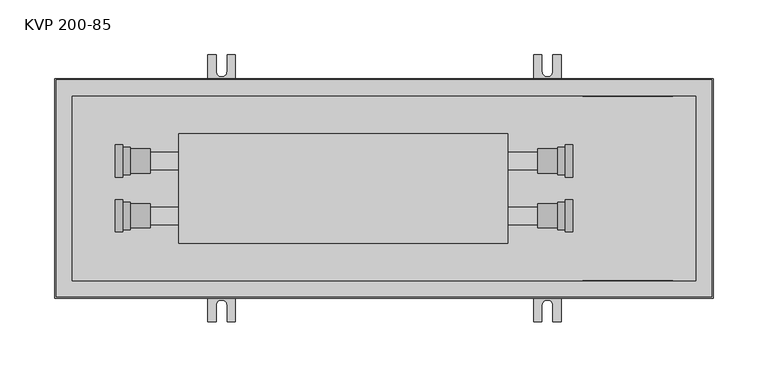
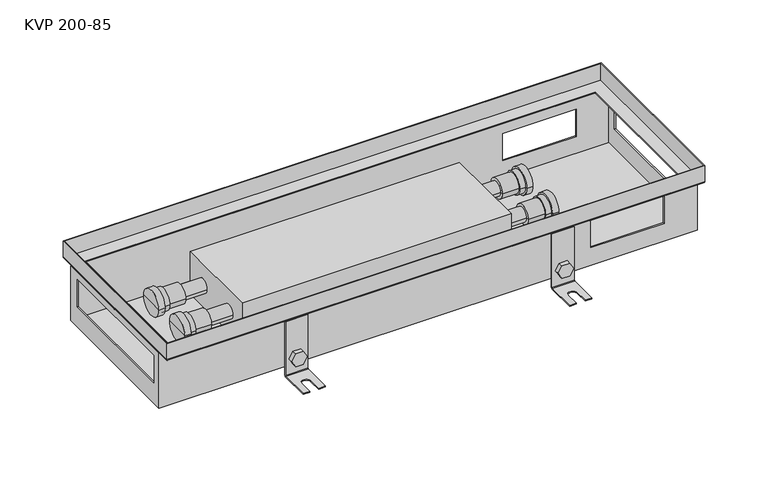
"""IFC4 building model written with IfcOpenShell, lengths in millimetres: proxy geometry, TECHNO_Конвектор встраиваемый_Usual_KVP-200_85-105-120 : KVP 200-85."""

from ifc_helpers import new_model, si_unit, point, frame, frame_2d, origin, place, context, project, spatial, polyline, circle_curve, ellipse_curve, trimmed, segment, composite_curve, outline, extrude, faceted_brep, source, transform, mapped, element, save
from ifc_brep_helpers import plane_surface, cylinder_surface, revolved_surface, advanced_brep


def kvp_200_85_9face046(model_context):
    return source(origin(), model_context, "Body", "SolidModel", [
        extrude(outline(composite_curve([segment(trimmed(circle_curve(frame_2d((-75.5, 449.0)), 7.5), [point((-75.5, 441.5))], [point((-75.5, 456.5))], False, "CARTESIAN"), True, "CONTINUOUS"), segment(trimmed(circle_curve(frame_2d((-75.5, 449.0)), 7.5), [point((-75.5, 456.5))], [point((-75.5, 441.5))], False, "CARTESIAN"), True, "CONTINUOUS")], self_intersect=False)), frame((0.0, 85.2, 0.0), z_axis=(0.0, 1.0, 0.0), x_axis=(0.0, 0.0, 1.0)), (0.0, 0.0, 1.0), 1.5),
        extrude(outline(polyline([(-75.5, 440.339746), (-83.0, 444.669873), (-83.0, 453.330127), (-75.5, 457.660254), (-68.0, 453.330127), (-68.0, 444.669873), (-75.5, 440.339746)])), frame((0.0, 87.9, 0.0), z_axis=(0.0, 1.0, 0.0), x_axis=(0.0, 0.0, 1.0)), (0.0, 0.0, 1.0), 5.1),
        advanced_brep(
        [(461.5, 87.9, -30.5), (461.5, 86.7, -30.5), (461.5, 86.7, -93.5), (461.5, 88.7, -95.5), (461.5, 121.7, -95.5), (461.5, 121.7, -94.3), (461.5, 88.7, -94.3), (461.5, 87.9, -93.5), (436.5, 87.9, -30.5), (436.5, 87.9, -93.5), (436.5, 88.7, -94.3), (436.5, 121.7, -94.3), (436.5, 121.7, -95.5), (436.5, 88.7, -95.5), (436.5, 86.7, -93.5), (436.5, 86.7, -30.5), (454.0, 121.7, -94.3), (454.0, 106.7, -94.3), (444.0, 106.7, -94.3), (444.0, 121.7, -94.3), (444.0, 121.7, -95.5), (454.0, 121.7, -95.5), (444.0, 106.7, -95.5), (454.0, 106.7, -95.5)],
        [
            (0, 1),
            (1, 2),
            (2, 3, circle_curve(frame((461.5, 88.7, -93.5), z_axis=(1.0, 0.0, 0.0), x_axis=(0.0, 1.0, 0.0)), 2.0)),
            (3, 4),
            (4, 5),
            (5, 6),
            (6, 7, circle_curve(frame((461.5, 88.7, -93.5), z_axis=(-1.0, 0.0, 0.0), x_axis=(0.0, 1.0, 0.0)), 0.8)),
            (7, 0),
            (8, 9),
            (9, 10, circle_curve(frame((436.5, 88.7, -93.5), z_axis=(1.0, 0.0, 0.0), x_axis=(0.0, 1.0, 0.0)), 0.8)),
            (10, 11),
            (11, 12),
            (12, 13),
            (13, 14, circle_curve(frame((436.5, 88.7, -93.5), z_axis=(-1.0, 0.0, 0.0), x_axis=(0.0, 1.0, 0.0)), 2.0)),
            (14, 15),
            (15, 8),
            (7, 9),
            (8, 0),
            (6, 10),
            (5, 16),
            (16, 17),
            (17, 18, circle_curve(frame((449.0, 106.7, -94.3), z_axis=(0.0, 0.0, -1.0), x_axis=(1.0, 0.0, 0.0)), 5.0)),
            (18, 19),
            (19, 11),
            (19, 20),
            (20, 12),
            (4, 21),
            (21, 16),
            (3, 13),
            (20, 22),
            (22, 23, circle_curve(frame((449.0, 106.7, -95.5), z_axis=(0.0, 0.0, 1.0), x_axis=(1.0, 0.0, 0.0)), 5.0)),
            (23, 21),
            (2, 14),
            (1, 15),
            (18, 22),
            (23, 17),
        ],
        [
            plane_surface(frame((461.5, 87.9, -30.5), z_axis=(1.0, 0.0, 0.0), x_axis=(0.0, 0.0, -1.0))),
            plane_surface(frame((436.5, 87.9, -30.5), z_axis=(-1.0, 0.0, 0.0), x_axis=(0.0, 0.0, 1.0))),
            plane_surface(frame((461.5, 87.9, -30.5), z_axis=(0.0, 1.0, 0.0), x_axis=(-1.0, 0.0, 0.0))),
            revolved_surface(polyline([(436.5, 89.5, -93.5), (461.5, 89.5, -93.5)]), (436.5, 88.7, -93.5), (-1.0, 0.0, 0.0)),
            plane_surface(frame((461.5, 88.7, -94.3), z_axis=(0.0, 0.0, 1.0), x_axis=(-1.0, 0.0, 0.0))),
            plane_surface(frame((461.5, 121.7, -94.3), z_axis=(0.0, 1.0, 0.0), x_axis=(-1.0, 0.0, 0.0))),
            plane_surface(frame((461.5, 121.7, -95.5), z_axis=(0.0, 0.0, -1.0), x_axis=(-1.0, 0.0, 0.0))),
            cylinder_surface(frame((436.5, 88.7, -93.5), z_axis=(1.0, 0.0, 0.0), x_axis=(0.0, 1.0, 0.0)), 2.0),
            plane_surface(frame((461.5, 86.7, -93.5), z_axis=(0.0, -1.0, 0.0), x_axis=(-1.0, 0.0, 0.0))),
            plane_surface(frame((461.5, 86.7, -30.5), z_axis=(0.0, 0.0, 1.0), x_axis=(-1.0, 0.0, 0.0))),
            plane_surface(frame((444.0, 106.7, -94.3), z_axis=(1.0, 0.0, 0.0), x_axis=(0.0, 0.0, -1.0))),
            plane_surface(frame((454.0, 121.7, -94.3), z_axis=(-1.0, 0.0, 0.0), x_axis=(0.0, 0.0, -1.0))),
            revolved_surface(polyline([(454.0, 106.7, -94.3), (454.0, 106.7, -95.5)]), (449.0, 106.7, -95.5), (0.0, 0.0, 1.0)),
        ],
        [
            (0, [[1, 2, 3, 4, 5, 6, 7, 8]]),
            (1, [[9, 10, 11, 12, 13, 14, 15, 16]]),
            (2, [[17, -9, 18, -8]]),
            (3, [[19, -10, -17, -7]]),
            (4, [[20, 21, 22, 23, 24, -11, -19, -6]]),
            (5, [[-24, 25, 26, -12]]),
            (5, [[27, 28, -20, -5]]),
            (6, [[29, -13, -26, 30, 31, 32, -27, -4]]),
            (7, [[33, -14, -29, -3]]),
            (8, [[34, -15, -33, -2]]),
            (9, [[-18, -16, -34, -1]]),
            (10, [[-30, -25, -23, 35]]),
            (11, [[-21, -28, -32, 36]]),
            (12, [[-22, -36, -31, -35]]),
        ],
    ),
        extrude(outline(composite_curve([segment(trimmed(circle_curve(frame_2d((-75.5, 449.0)), 7.5), [point((-75.5, 441.5))], [point((-75.5, 456.5))], False, "CARTESIAN"), True, "CONTINUOUS"), segment(trimmed(circle_curve(frame_2d((-75.5, 449.0)), 7.5), [point((-75.5, 456.5))], [point((-75.5, 441.5))], False, "CARTESIAN"), True, "CONTINUOUS")], self_intersect=False)), frame((0.0, -86.7, 0.0), z_axis=(0.0, 1.0, 0.0), x_axis=(0.0, 0.0, 1.0)), (0.0, 0.0, 1.0), 1.5),
        extrude(outline(polyline([(-75.5, 440.339746), (-83.0, 444.669873), (-83.0, 453.330127), (-75.5, 457.660254), (-68.0, 453.330127), (-68.0, 444.669873), (-75.5, 440.339746)])), frame((0.0, -93.0, 0.0), z_axis=(0.0, 1.0, 0.0), x_axis=(0.0, 0.0, 1.0)), (0.0, 0.0, 1.0), 5.1),
        advanced_brep(
        [(461.5, -87.9, -30.5), (461.5, -87.9, -93.5), (461.5, -88.7, -94.3), (461.5, -121.7, -94.3), (461.5, -121.7, -95.5), (461.5, -88.7, -95.5), (461.5, -86.7, -93.5), (461.5, -86.7, -30.5), (436.5, -87.9, -30.5), (436.5, -86.7, -30.5), (436.5, -86.7, -93.5), (436.5, -88.7, -95.5), (436.5, -121.7, -95.5), (436.5, -121.7, -94.3), (436.5, -88.7, -94.3), (436.5, -87.9, -93.5), (444.0, -121.7, -94.3), (444.0, -106.7, -94.3), (454.0, -106.7, -94.3), (454.0, -121.7, -94.3), (454.0, -121.7, -95.5), (444.0, -121.7, -95.5), (454.0, -106.7, -95.5), (444.0, -106.7, -95.5)],
        [
            (0, 1),
            (1, 2, circle_curve(frame((461.5, -88.7, -93.5), z_axis=(-1.0, 0.0, 0.0), x_axis=(0.0, -1.0, 0.0)), 0.8)),
            (2, 3),
            (3, 4),
            (4, 5),
            (5, 6, circle_curve(frame((461.5, -88.7, -93.5), z_axis=(1.0, 0.0, 0.0), x_axis=(0.0, -1.0, 0.0)), 2.0)),
            (6, 7),
            (7, 0),
            (8, 9),
            (9, 10),
            (10, 11, circle_curve(frame((436.5, -88.7, -93.5), z_axis=(-1.0, 0.0, 0.0), x_axis=(0.0, -1.0, 0.0)), 2.0)),
            (11, 12),
            (12, 13),
            (13, 14),
            (14, 15, circle_curve(frame((436.5, -88.7, -93.5), z_axis=(1.0, 0.0, 0.0), x_axis=(0.0, -1.0, 0.0)), 0.8)),
            (15, 8),
            (0, 8),
            (15, 1),
            (14, 2),
            (13, 16),
            (16, 17),
            (17, 18, circle_curve(frame((449.0, -106.7, -94.3), z_axis=(0.0, 0.0, -1.0), x_axis=(1.0, 0.0, 0.0)), 5.0)),
            (18, 19),
            (19, 3),
            (19, 20),
            (20, 4),
            (12, 21),
            (21, 16),
            (20, 22),
            (22, 23, circle_curve(frame((449.0, -106.7, -95.5), z_axis=(0.0, 0.0, 1.0), x_axis=(1.0, 0.0, 0.0)), 5.0)),
            (23, 21),
            (11, 5),
            (10, 6),
            (9, 7),
            (23, 17),
            (18, 22),
        ],
        [
            plane_surface(frame((461.5, -87.9, -30.5), z_axis=(1.0, 0.0, 0.0), x_axis=(0.0, 0.0, -1.0))),
            plane_surface(frame((436.5, -87.9, -30.5), z_axis=(-1.0, 0.0, 0.0), x_axis=(0.0, 0.0, 1.0))),
            plane_surface(frame((461.5, -87.9, -30.5), z_axis=(0.0, -1.0, 0.0), x_axis=(-1.0, 0.0, 0.0))),
            revolved_surface(polyline([(436.5, -89.5, -93.5), (461.5, -89.5, -93.5)]), (436.5, -88.7, -93.5), (-1.0, 0.0, 0.0)),
            plane_surface(frame((461.5, -88.7, -94.3), z_axis=(0.0, 0.0, 1.0), x_axis=(-1.0, 0.0, 0.0))),
            plane_surface(frame((461.5, -121.7, -94.3), z_axis=(0.0, -1.0, 0.0), x_axis=(-1.0, 0.0, 0.0))),
            plane_surface(frame((461.5, -121.7, -95.5), z_axis=(0.0, 0.0, -1.0), x_axis=(-1.0, 0.0, 0.0))),
            cylinder_surface(frame((436.5, -88.7, -93.5), z_axis=(1.0, 0.0, 0.0), x_axis=(0.0, -1.0, 0.0)), 2.0),
            plane_surface(frame((461.5, -86.7, -93.5), z_axis=(0.0, 1.0, 0.0), x_axis=(-1.0, 0.0, 0.0))),
            plane_surface(frame((461.5, -86.7, -30.5), z_axis=(0.0, 0.0, 1.0), x_axis=(-1.0, 0.0, 0.0))),
            plane_surface(frame((444.0, -106.7, -94.3), z_axis=(1.0, 0.0, 0.0), x_axis=(0.0, 0.0, -1.0))),
            plane_surface(frame((454.0, -121.7, -94.3), z_axis=(-1.0, 0.0, 0.0), x_axis=(0.0, 0.0, -1.0))),
            revolved_surface(polyline([(454.0, -106.7, -94.3), (454.0, -106.7, -95.5)]), (449.0, -106.7, -95.5), (0.0, 0.0, 1.0)),
        ],
        [
            (0, [[1, 2, 3, 4, 5, 6, 7, 8]]),
            (1, [[9, 10, 11, 12, 13, 14, 15, 16]]),
            (2, [[-1, 17, -16, 18]]),
            (3, [[-2, -18, -15, 19]]),
            (4, [[-3, -19, -14, 20, 21, 22, 23, 24]]),
            (5, [[-4, -24, 25, 26]]),
            (5, [[-13, 27, 28, -20]]),
            (6, [[-5, -26, 29, 30, 31, -27, -12, 32]]),
            (7, [[-6, -32, -11, 33]]),
            (8, [[-7, -33, -10, 34]]),
            (9, [[-8, -34, -9, -17]]),
            (10, [[35, -21, -28, -31]]),
            (11, [[36, -29, -25, -23]]),
            (12, [[-35, -30, -36, -22]]),
        ],
    ),
        extrude(outline(composite_curve([segment(trimmed(circle_curve(frame_2d((-75.5, 152.0)), 7.5), [point((-75.5, 144.5))], [point((-75.5, 159.5))], False, "CARTESIAN"), True, "CONTINUOUS"), segment(trimmed(circle_curve(frame_2d((-75.5, 152.0)), 7.5), [point((-75.5, 159.5))], [point((-75.5, 144.5))], False, "CARTESIAN"), True, "CONTINUOUS")], self_intersect=False)), frame((0.0, 85.2, 0.0), z_axis=(0.0, 1.0, 0.0), x_axis=(0.0, 0.0, 1.0)), (0.0, 0.0, 1.0), 1.5),
        extrude(outline(polyline([(-75.5, 143.339746), (-83.0, 147.669873), (-83.0, 156.330127), (-75.5, 160.660254), (-68.0, 156.330127), (-68.0, 147.669873), (-75.5, 143.339746)])), frame((0.0, 87.9, 0.0), z_axis=(0.0, 1.0, 0.0), x_axis=(0.0, 0.0, 1.0)), (0.0, 0.0, 1.0), 5.1),
        advanced_brep(
        [(164.5, 87.9, -30.5), (164.5, 86.7, -30.5), (164.5, 86.7, -93.5), (164.5, 88.7, -95.5), (164.5, 121.7, -95.5), (164.5, 121.7, -94.3), (164.5, 88.7, -94.3), (164.5, 87.9, -93.5), (139.5, 87.9, -30.5), (139.5, 87.9, -93.5), (139.5, 88.7, -94.3), (139.5, 121.7, -94.3), (139.5, 121.7, -95.5), (139.5, 88.7, -95.5), (139.5, 86.7, -93.5), (139.5, 86.7, -30.5), (157.0, 121.7, -94.3), (157.0, 106.7, -94.3), (147.0, 106.7, -94.3), (147.0, 121.7, -94.3), (147.0, 121.7, -95.5), (157.0, 121.7, -95.5), (147.0, 106.7, -95.5), (157.0, 106.7, -95.5)],
        [
            (0, 1),
            (1, 2),
            (2, 3, circle_curve(frame((164.5, 88.7, -93.5), z_axis=(1.0, 0.0, 0.0), x_axis=(0.0, 1.0, 0.0)), 2.0)),
            (3, 4),
            (4, 5),
            (5, 6),
            (6, 7, circle_curve(frame((164.5, 88.7, -93.5), z_axis=(-1.0, 0.0, 0.0), x_axis=(0.0, 1.0, 0.0)), 0.8)),
            (7, 0),
            (8, 9),
            (9, 10, circle_curve(frame((139.5, 88.7, -93.5), z_axis=(1.0, 0.0, 0.0), x_axis=(0.0, 1.0, 0.0)), 0.8)),
            (10, 11),
            (11, 12),
            (12, 13),
            (13, 14, circle_curve(frame((139.5, 88.7, -93.5), z_axis=(-1.0, 0.0, 0.0), x_axis=(0.0, 1.0, 0.0)), 2.0)),
            (14, 15),
            (15, 8),
            (7, 9),
            (8, 0),
            (6, 10),
            (5, 16),
            (16, 17),
            (17, 18, circle_curve(frame((152.0, 106.7, -94.3), z_axis=(0.0, 0.0, -1.0), x_axis=(1.0, 0.0, 0.0)), 5.0)),
            (18, 19),
            (19, 11),
            (19, 20),
            (20, 12),
            (4, 21),
            (21, 16),
            (3, 13),
            (20, 22),
            (22, 23, circle_curve(frame((152.0, 106.7, -95.5), z_axis=(0.0, 0.0, 1.0), x_axis=(1.0, 0.0, 0.0)), 5.0)),
            (23, 21),
            (2, 14),
            (1, 15),
            (18, 22),
            (23, 17),
        ],
        [
            plane_surface(frame((164.5, 87.9, -30.5), z_axis=(1.0, 0.0, 0.0), x_axis=(0.0, 0.0, -1.0))),
            plane_surface(frame((139.5, 87.9, -30.5), z_axis=(-1.0, 0.0, 0.0), x_axis=(0.0, 0.0, 1.0))),
            plane_surface(frame((164.5, 87.9, -30.5), z_axis=(0.0, 1.0, 0.0), x_axis=(-1.0, 0.0, 0.0))),
            revolved_surface(polyline([(139.5, 89.5, -93.5), (164.5, 89.5, -93.5)]), (139.5, 88.7, -93.5), (-1.0, 0.0, 0.0)),
            plane_surface(frame((164.5, 88.7, -94.3), z_axis=(0.0, 0.0, 1.0), x_axis=(-1.0, 0.0, 0.0))),
            plane_surface(frame((164.5, 121.7, -94.3), z_axis=(0.0, 1.0, 0.0), x_axis=(-1.0, 0.0, 0.0))),
            plane_surface(frame((164.5, 121.7, -95.5), z_axis=(0.0, 0.0, -1.0), x_axis=(-1.0, 0.0, 0.0))),
            cylinder_surface(frame((139.5, 88.7, -93.5), z_axis=(1.0, 0.0, 0.0), x_axis=(0.0, 1.0, 0.0)), 2.0),
            plane_surface(frame((164.5, 86.7, -93.5), z_axis=(0.0, -1.0, 0.0), x_axis=(-1.0, 0.0, 0.0))),
            plane_surface(frame((164.5, 86.7, -30.5), z_axis=(0.0, 0.0, 1.0), x_axis=(-1.0, 0.0, 0.0))),
            plane_surface(frame((147.0, 106.7, -94.3), z_axis=(1.0, 0.0, 0.0), x_axis=(0.0, 0.0, -1.0))),
            plane_surface(frame((157.0, 121.7, -94.3), z_axis=(-1.0, 0.0, 0.0), x_axis=(0.0, 0.0, -1.0))),
            revolved_surface(polyline([(157.0, 106.7, -94.3), (157.0, 106.7, -95.5)]), (152.0, 106.7, -95.5), (0.0, 0.0, 1.0)),
        ],
        [
            (0, [[1, 2, 3, 4, 5, 6, 7, 8]]),
            (1, [[9, 10, 11, 12, 13, 14, 15, 16]]),
            (2, [[17, -9, 18, -8]]),
            (3, [[19, -10, -17, -7]]),
            (4, [[20, 21, 22, 23, 24, -11, -19, -6]]),
            (5, [[-24, 25, 26, -12]]),
            (5, [[27, 28, -20, -5]]),
            (6, [[29, -13, -26, 30, 31, 32, -27, -4]]),
            (7, [[33, -14, -29, -3]]),
            (8, [[34, -15, -33, -2]]),
            (9, [[-18, -16, -34, -1]]),
            (10, [[-30, -25, -23, 35]]),
            (11, [[-21, -28, -32, 36]]),
            (12, [[-22, -36, -31, -35]]),
        ],
    ),
        extrude(outline(composite_curve([segment(trimmed(circle_curve(frame_2d((-75.5, 152.0)), 7.5), [point((-75.5, 144.5))], [point((-75.5, 159.5))], False, "CARTESIAN"), True, "CONTINUOUS"), segment(trimmed(circle_curve(frame_2d((-75.5, 152.0)), 7.5), [point((-75.5, 159.5))], [point((-75.5, 144.5))], False, "CARTESIAN"), True, "CONTINUOUS")], self_intersect=False)), frame((0.0, -86.7, 0.0), z_axis=(0.0, 1.0, 0.0), x_axis=(0.0, 0.0, 1.0)), (0.0, 0.0, 1.0), 1.5),
        extrude(outline(polyline([(-75.5, 143.339746), (-83.0, 147.669873), (-83.0, 156.330127), (-75.5, 160.660254), (-68.0, 156.330127), (-68.0, 147.669873), (-75.5, 143.339746)])), frame((0.0, -93.0, 0.0), z_axis=(0.0, 1.0, 0.0), x_axis=(0.0, 0.0, 1.0)), (0.0, 0.0, 1.0), 5.1),
        advanced_brep(
        [(164.5, -87.9, -30.5), (164.5, -87.9, -93.5), (164.5, -88.7, -94.3), (164.5, -121.7, -94.3), (164.5, -121.7, -95.5), (164.5, -88.7, -95.5), (164.5, -86.7, -93.5), (164.5, -86.7, -30.5), (139.5, -87.9, -30.5), (139.5, -86.7, -30.5), (139.5, -86.7, -93.5), (139.5, -88.7, -95.5), (139.5, -121.7, -95.5), (139.5, -121.7, -94.3), (139.5, -88.7, -94.3), (139.5, -87.9, -93.5), (147.0, -121.7, -94.3), (147.0, -106.7, -94.3), (157.0, -106.7, -94.3), (157.0, -121.7, -94.3), (157.0, -121.7, -95.5), (147.0, -121.7, -95.5), (157.0, -106.7, -95.5), (147.0, -106.7, -95.5)],
        [
            (0, 1),
            (1, 2, circle_curve(frame((164.5, -88.7, -93.5), z_axis=(-1.0, 0.0, 0.0), x_axis=(0.0, -1.0, 0.0)), 0.8)),
            (2, 3),
            (3, 4),
            (4, 5),
            (5, 6, circle_curve(frame((164.5, -88.7, -93.5), z_axis=(1.0, 0.0, 0.0), x_axis=(0.0, -1.0, 0.0)), 2.0)),
            (6, 7),
            (7, 0),
            (8, 9),
            (9, 10),
            (10, 11, circle_curve(frame((139.5, -88.7, -93.5), z_axis=(-1.0, 0.0, 0.0), x_axis=(0.0, -1.0, 0.0)), 2.0)),
            (11, 12),
            (12, 13),
            (13, 14),
            (14, 15, circle_curve(frame((139.5, -88.7, -93.5), z_axis=(1.0, 0.0, 0.0), x_axis=(0.0, -1.0, 0.0)), 0.8)),
            (15, 8),
            (0, 8),
            (15, 1),
            (14, 2),
            (13, 16),
            (16, 17),
            (17, 18, circle_curve(frame((152.0, -106.7, -94.3), z_axis=(0.0, 0.0, -1.0), x_axis=(1.0, 0.0, 0.0)), 5.0)),
            (18, 19),
            (19, 3),
            (19, 20),
            (20, 4),
            (12, 21),
            (21, 16),
            (20, 22),
            (22, 23, circle_curve(frame((152.0, -106.7, -95.5), z_axis=(0.0, 0.0, 1.0), x_axis=(1.0, 0.0, 0.0)), 5.0)),
            (23, 21),
            (11, 5),
            (10, 6),
            (9, 7),
            (23, 17),
            (18, 22),
        ],
        [
            plane_surface(frame((164.5, -87.9, -30.5), z_axis=(1.0, 0.0, 0.0), x_axis=(0.0, 0.0, -1.0))),
            plane_surface(frame((139.5, -87.9, -30.5), z_axis=(-1.0, 0.0, 0.0), x_axis=(0.0, 0.0, 1.0))),
            plane_surface(frame((164.5, -87.9, -30.5), z_axis=(0.0, -1.0, 0.0), x_axis=(-1.0, 0.0, 0.0))),
            revolved_surface(polyline([(139.5, -89.5, -93.5), (164.5, -89.5, -93.5)]), (139.5, -88.7, -93.5), (-1.0, 0.0, 0.0)),
            plane_surface(frame((164.5, -88.7, -94.3), z_axis=(0.0, 0.0, 1.0), x_axis=(-1.0, 0.0, 0.0))),
            plane_surface(frame((164.5, -121.7, -94.3), z_axis=(0.0, -1.0, 0.0), x_axis=(-1.0, 0.0, 0.0))),
            plane_surface(frame((164.5, -121.7, -95.5), z_axis=(0.0, 0.0, -1.0), x_axis=(-1.0, 0.0, 0.0))),
            cylinder_surface(frame((139.5, -88.7, -93.5), z_axis=(1.0, 0.0, 0.0), x_axis=(0.0, -1.0, 0.0)), 2.0),
            plane_surface(frame((164.5, -86.7, -93.5), z_axis=(0.0, 1.0, 0.0), x_axis=(-1.0, 0.0, 0.0))),
            plane_surface(frame((164.5, -86.7, -30.5), z_axis=(0.0, 0.0, 1.0), x_axis=(-1.0, 0.0, 0.0))),
            plane_surface(frame((147.0, -106.7, -94.3), z_axis=(1.0, 0.0, 0.0), x_axis=(0.0, 0.0, -1.0))),
            plane_surface(frame((157.0, -121.7, -94.3), z_axis=(-1.0, 0.0, 0.0), x_axis=(0.0, 0.0, -1.0))),
            revolved_surface(polyline([(157.0, -106.7, -94.3), (157.0, -106.7, -95.5)]), (152.0, -106.7, -95.5), (0.0, 0.0, 1.0)),
        ],
        [
            (0, [[1, 2, 3, 4, 5, 6, 7, 8]]),
            (1, [[9, 10, 11, 12, 13, 14, 15, 16]]),
            (2, [[-1, 17, -16, 18]]),
            (3, [[-2, -18, -15, 19]]),
            (4, [[-3, -19, -14, 20, 21, 22, 23, 24]]),
            (5, [[-4, -24, 25, 26]]),
            (5, [[-13, 27, 28, -20]]),
            (6, [[-5, -26, 29, 30, 31, -27, -12, 32]]),
            (7, [[-6, -32, -11, 33]]),
            (8, [[-7, -33, -10, 34]]),
            (9, [[-8, -34, -9, -17]]),
            (10, [[35, -21, -28, -31]]),
            (11, [[36, -29, -25, -23]]),
            (12, [[-35, -30, -36, -22]]),
        ],
    ),
        advanced_brep(
        [(87.0, 14.0, -46.5), (87.0, 36.0, -46.5), (87.0, 25.0, -46.5), (68.5, 14.0, -46.5), (68.5, 36.0, -46.5), (68.5, 12.5, -46.5), (68.5, 37.5, -46.5), (62.0, 12.5, -46.5), (62.0, 37.5, -46.5), (62.0, 10.3, -46.5), (62.0, 39.7, -46.5), (55.0, 10.3, -46.5), (55.0, 39.7, -46.5), (55.0, 25.0, -46.5)],
        [
            (0, 1, circle_curve(frame((87.0, 25.0, -46.5), z_axis=(1.0, 0.0, 0.0), x_axis=(0.0, 1.0, 0.0)), 11.0)),
            (1, 2),
            (2, 0),
            (1, 0, circle_curve(frame((87.0, 25.0, -46.5), z_axis=(1.0, 0.0, 0.0), x_axis=(0.0, 1.0, 0.0)), 11.0)),
            (3, 4, circle_curve(frame((68.5, 25.0, -46.5), z_axis=(1.0, 0.0, 0.0), x_axis=(0.0, 1.0, 0.0)), 11.0)),
            (4, 1),
            (0, 3),
            (4, 3, circle_curve(frame((68.5, 25.0, -46.5), z_axis=(1.0, 0.0, 0.0), x_axis=(0.0, 1.0, 0.0)), 11.0)),
            (5, 6, circle_curve(frame((68.5, 25.0, -46.5), z_axis=(1.0, 0.0, 0.0), x_axis=(0.0, 1.0, 0.0)), 12.5)),
            (6, 4),
            (3, 5),
            (6, 5, circle_curve(frame((68.5, 25.0, -46.5), z_axis=(1.0, 0.0, 0.0), x_axis=(0.0, 1.0, 0.0)), 12.5)),
            (7, 8, circle_curve(frame((62.0, 25.0, -46.5), z_axis=(1.0, 0.0, 0.0), x_axis=(0.0, 1.0, 0.0)), 12.5)),
            (8, 6),
            (5, 7),
            (8, 7, circle_curve(frame((62.0, 25.0, -46.5), z_axis=(1.0, 0.0, 0.0), x_axis=(0.0, 1.0, 0.0)), 12.5)),
            (9, 10, circle_curve(frame((62.0, 25.0, -46.5), z_axis=(1.0, 0.0, 0.0), x_axis=(0.0, 1.0, 0.0)), 14.7)),
            (10, 8),
            (7, 9),
            (10, 9, circle_curve(frame((62.0, 25.0, -46.5), z_axis=(1.0, 0.0, 0.0), x_axis=(0.0, 1.0, 0.0)), 14.7)),
            (11, 12, circle_curve(frame((55.0, 25.0, -46.5), z_axis=(1.0, 0.0, 0.0), x_axis=(0.0, 1.0, 0.0)), 14.7)),
            (12, 10),
            (9, 11),
            (12, 11, circle_curve(frame((55.0, 25.0, -46.5), z_axis=(1.0, 0.0, 0.0), x_axis=(0.0, 1.0, 0.0)), 14.7)),
            (13, 12),
            (11, 13),
        ],
        [
            plane_surface(frame((87.0, 25.0, -46.5), z_axis=(1.0, 0.0, 0.0), x_axis=(0.0, 1.0, 0.0))),
            cylinder_surface(frame((45.0, 25.0, -46.5), z_axis=(-1.0, 0.0, 0.0), x_axis=(0.0, 1.0, 0.0)), 11.0),
            plane_surface(frame((68.5, 25.0, -46.5), z_axis=(1.0, 0.0, 0.0), x_axis=(0.0, 1.0, 0.0))),
            cylinder_surface(frame((45.0, 25.0, -46.5), z_axis=(-1.0, 0.0, 0.0), x_axis=(0.0, 1.0, 0.0)), 12.5),
            plane_surface(frame((62.0, 25.0, -46.5), z_axis=(1.0, 0.0, 0.0), x_axis=(0.0, 1.0, 0.0))),
            cylinder_surface(frame((45.0, 25.0, -46.5), z_axis=(-1.0, 0.0, 0.0), x_axis=(0.0, 1.0, 0.0)), 14.7),
            plane_surface(frame((55.0, 25.0, -46.5), z_axis=(-1.0, 0.0, 0.0), x_axis=(0.0, 1.0, 0.0))),
        ],
        [
            (0, [[1, 2, 3]]),
            (0, [[4, -3, -2]]),
            (1, [[5, 6, -1, 7]]),
            (1, [[8, -7, -4, -6]]),
            (2, [[9, 10, -5, 11]]),
            (2, [[12, -11, -8, -10]]),
            (3, [[13, 14, -9, 15]]),
            (3, [[16, -15, -12, -14]]),
            (4, [[17, 18, -13, 19]]),
            (4, [[20, -19, -16, -18]]),
            (5, [[21, 22, -17, 23]]),
            (5, [[24, -23, -20, -22]]),
            (6, [[25, -21, 26]]),
            (6, [[-26, -24, -25]]),
        ],
    ),
        advanced_brep(
        [(87.0, -36.0, -46.5), (87.0, -14.0, -46.5), (87.0, -25.0, -46.5), (68.5, -36.0, -46.5), (68.5, -14.0, -46.5), (68.5, -37.5, -46.5), (68.5, -12.5, -46.5), (62.0, -37.5, -46.5), (62.0, -12.5, -46.5), (62.0, -39.7, -46.5), (62.0, -10.3, -46.5), (55.0, -39.7, -46.5), (55.0, -10.3, -46.5), (55.0, -25.0, -46.5)],
        [
            (0, 1, circle_curve(frame((87.0, -25.0, -46.5), z_axis=(1.0, 0.0, 0.0), x_axis=(0.0, 1.0, 0.0)), 11.0)),
            (1, 2),
            (2, 0),
            (1, 0, circle_curve(frame((87.0, -25.0, -46.5), z_axis=(1.0, 0.0, 0.0), x_axis=(0.0, 1.0, 0.0)), 11.0)),
            (3, 4, circle_curve(frame((68.5, -25.0, -46.5), z_axis=(1.0, 0.0, 0.0), x_axis=(0.0, 1.0, 0.0)), 11.0)),
            (4, 1),
            (0, 3),
            (4, 3, circle_curve(frame((68.5, -25.0, -46.5), z_axis=(1.0, 0.0, 0.0), x_axis=(0.0, 1.0, 0.0)), 11.0)),
            (5, 6, circle_curve(frame((68.5, -25.0, -46.5), z_axis=(1.0, 0.0, 0.0), x_axis=(0.0, 1.0, 0.0)), 12.5)),
            (6, 4),
            (3, 5),
            (6, 5, circle_curve(frame((68.5, -25.0, -46.5), z_axis=(1.0, 0.0, 0.0), x_axis=(0.0, 1.0, 0.0)), 12.5)),
            (7, 8, circle_curve(frame((62.0, -25.0, -46.5), z_axis=(1.0, 0.0, 0.0), x_axis=(0.0, 1.0, 0.0)), 12.5)),
            (8, 6),
            (5, 7),
            (8, 7, circle_curve(frame((62.0, -25.0, -46.5), z_axis=(1.0, 0.0, 0.0), x_axis=(0.0, 1.0, 0.0)), 12.5)),
            (9, 10, circle_curve(frame((62.0, -25.0, -46.5), z_axis=(1.0, 0.0, 0.0), x_axis=(0.0, 1.0, 0.0)), 14.7)),
            (10, 8),
            (7, 9),
            (10, 9, circle_curve(frame((62.0, -25.0, -46.5), z_axis=(1.0, 0.0, 0.0), x_axis=(0.0, 1.0, 0.0)), 14.7)),
            (11, 12, circle_curve(frame((55.0, -25.0, -46.5), z_axis=(1.0, 0.0, 0.0), x_axis=(0.0, 1.0, 0.0)), 14.7)),
            (12, 10),
            (9, 11),
            (12, 11, circle_curve(frame((55.0, -25.0, -46.5), z_axis=(1.0, 0.0, 0.0), x_axis=(0.0, 1.0, 0.0)), 14.7)),
            (13, 12),
            (11, 13),
        ],
        [
            plane_surface(frame((87.0, -25.0, -46.5), z_axis=(1.0, 0.0, 0.0), x_axis=(0.0, 1.0, 0.0))),
            cylinder_surface(frame((45.0, -25.0, -46.5), z_axis=(-1.0, 0.0, 0.0), x_axis=(0.0, 1.0, 0.0)), 11.0),
            plane_surface(frame((68.5, -25.0, -46.5), z_axis=(1.0, 0.0, 0.0), x_axis=(0.0, 1.0, 0.0))),
            cylinder_surface(frame((45.0, -25.0, -46.5), z_axis=(-1.0, 0.0, 0.0), x_axis=(0.0, 1.0, 0.0)), 12.5),
            plane_surface(frame((62.0, -25.0, -46.5), z_axis=(1.0, 0.0, 0.0), x_axis=(0.0, 1.0, 0.0))),
            cylinder_surface(frame((45.0, -25.0, -46.5), z_axis=(-1.0, 0.0, 0.0), x_axis=(0.0, 1.0, 0.0)), 14.7),
            plane_surface(frame((55.0, -25.0, -46.5), z_axis=(-1.0, 0.0, 0.0), x_axis=(0.0, 1.0, 0.0))),
        ],
        [
            (0, [[1, 2, 3]]),
            (0, [[4, -3, -2]]),
            (1, [[5, 6, -1, 7]]),
            (1, [[8, -7, -4, -6]]),
            (2, [[9, 10, -5, 11]]),
            (2, [[12, -11, -8, -10]]),
            (3, [[13, 14, -9, 15]]),
            (3, [[16, -15, -12, -14]]),
            (4, [[17, 18, -13, 19]]),
            (4, [[20, -19, -16, -18]]),
            (5, [[21, 22, -17, 23]]),
            (5, [[24, -23, -20, -22]]),
            (6, [[25, -21, 26]]),
            (6, [[-26, -24, -25]]),
        ],
    ),
        extrude(outline(polyline([(413.0, 50.0), (413.0, -50.0), (113.0, -50.0), (113.0, 50.0), (413.0, 50.0)])), frame((0.0, 0.0, -71.5), z_axis=(0.0, 0.0, 1.0), x_axis=(1.0, 0.0, 0.0)), (0.0, 0.0, 1.0), 50.0),
        advanced_brep(
        [(440.0, 25.0, -46.5), (440.0, 36.0, -46.5), (440.0, 14.0, -46.5), (458.5, 36.0, -46.5), (458.5, 14.0, -46.5), (458.5, 37.5, -46.5), (458.5, 12.5, -46.5), (465.0, 37.5, -46.5), (465.0, 12.5, -46.5), (465.0, 39.7, -46.5), (465.0, 10.3, -46.5), (472.0, 39.7, -46.5), (472.0, 10.3, -46.5), (472.0, 25.0, -46.5)],
        [
            (0, 1),
            (1, 2, circle_curve(frame((440.0, 25.0, -46.5), z_axis=(-1.0, 0.0, 0.0), x_axis=(0.0, 1.0, 0.0)), 11.0)),
            (2, 0),
            (2, 1, circle_curve(frame((440.0, 25.0, -46.5), z_axis=(-1.0, 0.0, 0.0), x_axis=(0.0, 1.0, 0.0)), 11.0)),
            (1, 3),
            (3, 4, circle_curve(frame((458.5, 25.0, -46.5), z_axis=(-1.0, 0.0, 0.0), x_axis=(0.0, 1.0, 0.0)), 11.0)),
            (4, 2),
            (4, 3, circle_curve(frame((458.5, 25.0, -46.5), z_axis=(-1.0, 0.0, 0.0), x_axis=(0.0, 1.0, 0.0)), 11.0)),
            (3, 5),
            (5, 6, circle_curve(frame((458.5, 25.0, -46.5), z_axis=(-1.0, 0.0, 0.0), x_axis=(0.0, 1.0, 0.0)), 12.5)),
            (6, 4),
            (6, 5, circle_curve(frame((458.5, 25.0, -46.5), z_axis=(-1.0, 0.0, 0.0), x_axis=(0.0, 1.0, 0.0)), 12.5)),
            (5, 7),
            (7, 8, circle_curve(frame((465.0, 25.0, -46.5), z_axis=(-1.0, 0.0, 0.0), x_axis=(0.0, 1.0, 0.0)), 12.5)),
            (8, 6),
            (8, 7, circle_curve(frame((465.0, 25.0, -46.5), z_axis=(-1.0, 0.0, 0.0), x_axis=(0.0, 1.0, 0.0)), 12.5)),
            (7, 9),
            (9, 10, circle_curve(frame((465.0, 25.0, -46.5), z_axis=(-1.0, 0.0, 0.0), x_axis=(0.0, 1.0, 0.0)), 14.7)),
            (10, 8),
            (10, 9, circle_curve(frame((465.0, 25.0, -46.5), z_axis=(-1.0, 0.0, 0.0), x_axis=(0.0, 1.0, 0.0)), 14.7)),
            (9, 11),
            (11, 12, circle_curve(frame((472.0, 25.0, -46.5), z_axis=(-1.0, 0.0, 0.0), x_axis=(0.0, 1.0, 0.0)), 14.7)),
            (12, 10),
            (12, 11, circle_curve(frame((472.0, 25.0, -46.5), z_axis=(-1.0, 0.0, 0.0), x_axis=(0.0, 1.0, 0.0)), 14.7)),
            (11, 13),
            (13, 12),
        ],
        [
            plane_surface(frame((440.0, 25.0, -46.5), z_axis=(-1.0, 0.0, 0.0), x_axis=(0.0, 1.0, 0.0))),
            cylinder_surface(frame((480.0, 25.0, -46.5), z_axis=(-1.0, 0.0, 0.0), x_axis=(0.0, 1.0, 0.0)), 11.0),
            plane_surface(frame((458.5, 25.0, -46.5), z_axis=(-1.0, 0.0, 0.0), x_axis=(0.0, 1.0, 0.0))),
            cylinder_surface(frame((480.0, 25.0, -46.5), z_axis=(-1.0, 0.0, 0.0), x_axis=(0.0, 1.0, 0.0)), 12.5),
            plane_surface(frame((465.0, 25.0, -46.5), z_axis=(-1.0, 0.0, 0.0), x_axis=(0.0, 1.0, 0.0))),
            cylinder_surface(frame((480.0, 25.0, -46.5), z_axis=(-1.0, 0.0, 0.0), x_axis=(0.0, 1.0, 0.0)), 14.7),
            plane_surface(frame((472.0, 25.0, -46.5), z_axis=(1.0, 0.0, 0.0), x_axis=(0.0, 1.0, 0.0))),
        ],
        [
            (0, [[1, 2, 3]]),
            (0, [[-3, 4, -1]]),
            (1, [[-2, 5, 6, 7]]),
            (1, [[-4, -7, 8, -5]]),
            (2, [[-6, 9, 10, 11]]),
            (2, [[-8, -11, 12, -9]]),
            (3, [[-10, 13, 14, 15]]),
            (3, [[-12, -15, 16, -13]]),
            (4, [[-14, 17, 18, 19]]),
            (4, [[-16, -19, 20, -17]]),
            (5, [[-18, 21, 22, 23]]),
            (5, [[-20, -23, 24, -21]]),
            (6, [[-22, 25, 26]]),
            (6, [[-24, -26, -25]]),
        ],
    ),
        advanced_brep(
        [(440.0, -25.0, -46.5), (440.0, -14.0, -46.5), (440.0, -36.0, -46.5), (458.5, -14.0, -46.5), (458.5, -36.0, -46.5), (458.5, -12.5, -46.5), (458.5, -37.5, -46.5), (465.0, -12.5, -46.5), (465.0, -37.5, -46.5), (465.0, -10.3, -46.5), (465.0, -39.7, -46.5), (472.0, -10.3, -46.5), (472.0, -39.7, -46.5), (472.0, -25.0, -46.5)],
        [
            (0, 1),
            (1, 2, circle_curve(frame((440.0, -25.0, -46.5), z_axis=(-1.0, 0.0, 0.0), x_axis=(0.0, 1.0, 0.0)), 11.0)),
            (2, 0),
            (2, 1, circle_curve(frame((440.0, -25.0, -46.5), z_axis=(-1.0, 0.0, 0.0), x_axis=(0.0, 1.0, 0.0)), 11.0)),
            (1, 3),
            (3, 4, circle_curve(frame((458.5, -25.0, -46.5), z_axis=(-1.0, 0.0, 0.0), x_axis=(0.0, 1.0, 0.0)), 11.0)),
            (4, 2),
            (4, 3, circle_curve(frame((458.5, -25.0, -46.5), z_axis=(-1.0, 0.0, 0.0), x_axis=(0.0, 1.0, 0.0)), 11.0)),
            (3, 5),
            (5, 6, circle_curve(frame((458.5, -25.0, -46.5), z_axis=(-1.0, 0.0, 0.0), x_axis=(0.0, 1.0, 0.0)), 12.5)),
            (6, 4),
            (6, 5, circle_curve(frame((458.5, -25.0, -46.5), z_axis=(-1.0, 0.0, 0.0), x_axis=(0.0, 1.0, 0.0)), 12.5)),
            (5, 7),
            (7, 8, circle_curve(frame((465.0, -25.0, -46.5), z_axis=(-1.0, 0.0, 0.0), x_axis=(0.0, 1.0, 0.0)), 12.5)),
            (8, 6),
            (8, 7, circle_curve(frame((465.0, -25.0, -46.5), z_axis=(-1.0, 0.0, 0.0), x_axis=(0.0, 1.0, 0.0)), 12.5)),
            (7, 9),
            (9, 10, circle_curve(frame((465.0, -25.0, -46.5), z_axis=(-1.0, 0.0, 0.0), x_axis=(0.0, 1.0, 0.0)), 14.7)),
            (10, 8),
            (10, 9, circle_curve(frame((465.0, -25.0, -46.5), z_axis=(-1.0, 0.0, 0.0), x_axis=(0.0, 1.0, 0.0)), 14.7)),
            (9, 11),
            (11, 12, circle_curve(frame((472.0, -25.0, -46.5), z_axis=(-1.0, 0.0, 0.0), x_axis=(0.0, 1.0, 0.0)), 14.7)),
            (12, 10),
            (12, 11, circle_curve(frame((472.0, -25.0, -46.5), z_axis=(-1.0, 0.0, 0.0), x_axis=(0.0, 1.0, 0.0)), 14.7)),
            (11, 13),
            (13, 12),
        ],
        [
            plane_surface(frame((440.0, -25.0, -46.5), z_axis=(-1.0, 0.0, 0.0), x_axis=(0.0, 1.0, 0.0))),
            cylinder_surface(frame((480.0, -25.0, -46.5), z_axis=(-1.0, 0.0, 0.0), x_axis=(0.0, 1.0, 0.0)), 11.0),
            plane_surface(frame((458.5, -25.0, -46.5), z_axis=(-1.0, 0.0, 0.0), x_axis=(0.0, 1.0, 0.0))),
            cylinder_surface(frame((480.0, -25.0, -46.5), z_axis=(-1.0, 0.0, 0.0), x_axis=(0.0, 1.0, 0.0)), 12.5),
            plane_surface(frame((465.0, -25.0, -46.5), z_axis=(-1.0, 0.0, 0.0), x_axis=(0.0, 1.0, 0.0))),
            cylinder_surface(frame((480.0, -25.0, -46.5), z_axis=(-1.0, 0.0, 0.0), x_axis=(0.0, 1.0, 0.0)), 14.7),
            plane_surface(frame((472.0, -25.0, -46.5), z_axis=(1.0, 0.0, 0.0), x_axis=(0.0, 1.0, 0.0))),
        ],
        [
            (0, [[1, 2, 3]]),
            (0, [[-3, 4, -1]]),
            (1, [[-2, 5, 6, 7]]),
            (1, [[-4, -7, 8, -5]]),
            (2, [[-6, 9, 10, 11]]),
            (2, [[-8, -11, 12, -9]]),
            (3, [[-10, 13, 14, 15]]),
            (3, [[-12, -15, 16, -13]]),
            (4, [[-14, 17, 18, 19]]),
            (4, [[-16, -19, 20, -17]]),
            (5, [[-18, 21, 22, 23]]),
            (5, [[-20, -23, 24, -21]]),
            (6, [[-22, 25, 26]]),
            (6, [[-24, -26, -25]]),
        ],
    ),
        extrude(outline(composite_curve([segment(trimmed(circle_curve(frame_2d((25.0, -46.5)), 8.0), [point((17.0, -46.5))], [point((33.0, -46.5))], False, "CARTESIAN"), True, "CONTINUOUS"), segment(trimmed(circle_curve(frame_2d((25.0, -46.5)), 8.0), [point((33.0, -46.5))], [point((17.0, -46.5))], False, "CARTESIAN"), True, "CONTINUOUS")], self_intersect=False)), frame((87.0, 0.0, 0.0), z_axis=(1.0, 0.0, 0.0), x_axis=(0.0, 1.0, 0.0)), (0.0, 0.0, 1.0), 353.0),
        extrude(outline(composite_curve([segment(trimmed(circle_curve(frame_2d((-25.0, -46.5)), 8.0), [point((-33.0, -46.5))], [point((-17.0, -46.5))], False, "CARTESIAN"), True, "CONTINUOUS"), segment(trimmed(circle_curve(frame_2d((-25.0, -46.5)), 8.0), [point((-17.0, -46.5))], [point((-33.0, -46.5))], False, "CARTESIAN"), True, "CONTINUOUS")], self_intersect=False)), frame((87.0, 0.0, 0.0), z_axis=(1.0, 0.0, 0.0), x_axis=(0.0, 1.0, 0.0)), (0.0, 0.0, 1.0), 353.0),
        faceted_brep([(598.8, -84.0, -83.8), (598.8, 84.0, -83.8), (1.2, 84.0, -83.8), (1.2, -84.0, -83.8), (0.0, -85.2, -85.0), (0.0, 85.2, -85.0), (600.0, 85.2, -85.0), (600.0, -85.2, -85.0), (600.0, -85.2, -20.5), (0.0, -85.2, -20.5), (481.0, -85.2, -32.0), (563.0, -85.2, -32.0), (563.0, -85.2, -64.0), (481.0, -85.2, -64.0), (600.0, 85.2, -20.5), (600.0, 72.6, -29.0), (600.0, 72.6, -61.0), (600.0, -75.0, -61.0), (600.0, -75.0, -29.0), (0.0, 85.2, -20.5), (563.0, 85.2, -32.0), (481.0, 85.2, -32.0), (481.0, 85.2, -64.0), (563.0, 85.2, -64.0), (0.0, 72.6, -61.0), (0.0, 72.6, -29.0), (0.0, -75.0, -29.0), (0.0, -75.0, -61.0), (598.8, -84.0, -20.5), (598.8, 84.0, -20.5), (598.8, 72.6, -61.0), (598.8, 72.6, -29.0), (598.8, -75.0, -29.0), (598.8, -75.0, -61.0), (1.2, -84.0, -20.5), (563.0, -84.0, -32.0), (481.0, -84.0, -32.0), (481.0, -84.0, -64.0), (563.0, -84.0, -64.0), (1.2, 84.0, -20.5), (1.2, 72.6, -29.0), (1.2, 72.6, -61.0), (1.2, -75.0, -61.0), (1.2, -75.0, -29.0), (481.0, 84.0, -32.0), (563.0, 84.0, -32.0), (563.0, 84.0, -64.0), (481.0, 84.0, -64.0)], [[[0, 1, 2, 3]], [[4, 5, 6, 7]], [[4, 7, 8, 9], [10, 11, 12, 13]], [[7, 6, 14, 8], [15, 16, 17, 18]], [[6, 5, 19, 14], [20, 21, 22, 23]], [[5, 4, 9, 19], [24, 25, 26, 27]], [[28, 29, 1, 0], [30, 31, 32, 33]], [[34, 28, 0, 3], [35, 36, 37, 38]], [[39, 34, 3, 2], [40, 41, 42, 43]], [[29, 39, 2, 1], [44, 45, 46, 47]], [[8, 14, 19, 9], [29, 28, 34, 39]], [[35, 11, 10, 36]], [[20, 45, 44, 21]], [[36, 10, 13, 37]], [[21, 44, 47, 22]], [[37, 13, 12, 38]], [[22, 47, 46, 23]], [[11, 35, 38, 12]], [[45, 20, 23, 46]], [[15, 31, 30, 16]], [[31, 15, 18, 32]], [[32, 18, 17, 33]], [[16, 30, 33, 17]], [[24, 41, 40, 25]], [[25, 40, 43, 26]], [[26, 43, 42, 27]], [[41, 24, 27, 42]]]),
        advanced_brep(
        [(584.0, 84.0, -19.3), (584.0, 84.0, -20.5), (584.0, -84.0, -20.5), (584.0, -84.0, -19.3), (598.8, 98.8, 0.0), (598.8, 98.8, -19.3), (598.8, -98.8, -19.3), (598.8, -98.8, 0.0), (600.0, 100.0, -18.5), (600.0, 100.0, 0.0), (600.0, -100.0, 0.0), (600.0, -100.0, -18.5), (16.0, -84.0, -20.5), (16.0, -84.0, -19.3), (1.2, -98.8, -19.3), (1.2, -98.8, 0.0), (0.0, -100.0, 0.0), (0.0, -100.0, -18.5), (16.0, 84.0, -20.5), (16.0, 84.0, -19.3), (1.2, 98.8, -19.3), (1.2, 98.8, 0.0), (0.0, 100.0, 0.0), (0.0, 100.0, -18.5), (598.0, -98.0, -20.5), (2.0, -98.0, -20.5), (2.0, 98.0, -20.5), (598.0, 98.0, -20.5)],
        [
            (0, 1),
            (1, 2),
            (2, 3),
            (3, 0),
            (4, 5),
            (5, 6),
            (6, 7),
            (7, 4),
            (8, 9),
            (9, 10),
            (10, 11),
            (11, 8),
            (2, 12),
            (12, 13),
            (13, 3),
            (6, 14),
            (14, 15),
            (15, 7),
            (10, 16),
            (16, 17),
            (17, 11),
            (12, 18),
            (18, 19),
            (19, 13),
            (14, 20),
            (20, 21),
            (21, 15),
            (16, 22),
            (22, 23),
            (23, 17),
            (24, 25),
            (25, 26),
            (26, 27),
            (27, 24),
            (1, 18),
            (0, 19),
            (5, 20),
            (4, 21),
            (9, 22),
            (8, 23),
            (27, 8, ellipse_curve(frame((598.0, 98.0, -18.5), z_axis=(0.7071067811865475, -0.7071067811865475, 0.0), x_axis=(0.7071067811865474, 0.7071067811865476, 0.0)), 2.8284271, 2.0)),
            (11, 24, ellipse_curve(frame((598.0, -98.0, -18.5), z_axis=(0.7071067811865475, 0.7071067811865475, 0.0), x_axis=(-0.7071067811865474, 0.7071067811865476, 0.0)), 2.8284271, 2.0)),
            (17, 25, ellipse_curve(frame((2.0, -98.0, -18.5), z_axis=(0.7071067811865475, -0.7071067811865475, 0.0), x_axis=(0.7071067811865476, 0.7071067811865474, 0.0)), 2.8284271, 2.0)),
            (23, 26, ellipse_curve(frame((2.0, 98.0, -18.5), z_axis=(-0.7071067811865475, -0.7071067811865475, 0.0), x_axis=(0.7071067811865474, -0.7071067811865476, 0.0)), 2.8284271, 2.0)),
        ],
        [
            plane_surface(frame((584.0, 84.0, -20.5), z_axis=(-1.0, 0.0, 0.0), x_axis=(0.0, -1.0, 0.0))),
            plane_surface(frame((598.8, 98.8, -19.3), z_axis=(-1.0, 0.0, 0.0), x_axis=(0.0, -1.0, 0.0))),
            plane_surface(frame((600.0, 100.0, 0.0), z_axis=(1.0, 0.0, 0.0), x_axis=(0.0, -1.0, 0.0))),
            plane_surface(frame((584.0, -84.0, -20.5), z_axis=(0.0, 1.0, 0.0), x_axis=(-1.0, 0.0, 0.0))),
            plane_surface(frame((598.8, -98.8, -19.3), z_axis=(0.0, 1.0, 0.0), x_axis=(-1.0, 0.0, 0.0))),
            plane_surface(frame((600.0, -100.0, 0.0), z_axis=(0.0, -1.0, 0.0), x_axis=(-1.0, 0.0, 0.0))),
            plane_surface(frame((16.0, -84.0, -20.5), z_axis=(1.0, 0.0, 0.0), x_axis=(0.0, 1.0, 0.0))),
            plane_surface(frame((1.2, -98.8, -19.3), z_axis=(1.0, 0.0, 0.0), x_axis=(0.0, 1.0, 0.0))),
            plane_surface(frame((0.0, -100.0, 0.0), z_axis=(-1.0, 0.0, 0.0), x_axis=(0.0, 1.0, 0.0))),
            plane_surface(frame((2.0, 98.0, -20.5), z_axis=(0.0, 0.0, -1.0), x_axis=(1.0, 0.0, 0.0))),
            plane_surface(frame((16.0, 84.0, -20.5), z_axis=(0.0, -1.0, 0.0), x_axis=(1.0, 0.0, 0.0))),
            plane_surface(frame((16.0, 84.0, -19.3), z_axis=(0.0, 0.0, 1.0), x_axis=(1.0, 0.0, 0.0))),
            plane_surface(frame((1.2, 98.8, -19.3), z_axis=(0.0, -1.0, 0.0), x_axis=(1.0, 0.0, 0.0))),
            plane_surface(frame((1.2, 98.8, 0.0), z_axis=(0.0, 0.0, 1.0), x_axis=(1.0, 0.0, 0.0))),
            plane_surface(frame((0.0, 100.0, 0.0), z_axis=(0.0, 1.0, 0.0), x_axis=(1.0, 0.0, 0.0))),
            cylinder_surface(frame((598.0, 100.0, -18.5), z_axis=(0.0, 1.0, 0.0), x_axis=(1.0, 0.0, 0.0)), 2.0),
            cylinder_surface(frame((600.0, -98.0, -18.5), z_axis=(1.0, 0.0, 0.0), x_axis=(0.0, -1.0, 0.0)), 2.0),
            cylinder_surface(frame((2.0, -100.0, -18.5), z_axis=(0.0, -1.0, 0.0), x_axis=(-1.0, 0.0, 0.0)), 2.0),
            cylinder_surface(frame((0.0, 98.0, -18.5), z_axis=(-1.0, 0.0, 0.0), x_axis=(0.0, 1.0, 0.0)), 2.0),
        ],
        [
            (0, [[1, 2, 3, 4]]),
            (1, [[5, 6, 7, 8]]),
            (2, [[9, 10, 11, 12]]),
            (3, [[-3, 13, 14, 15]]),
            (4, [[-7, 16, 17, 18]]),
            (5, [[-11, 19, 20, 21]]),
            (6, [[-14, 22, 23, 24]]),
            (7, [[-17, 25, 26, 27]]),
            (8, [[-20, 28, 29, 30]]),
            (9, [[31, 32, 33, 34], [35, -22, -13, -2]]),
            (10, [[-23, -35, -1, 36]]),
            (11, [[37, -25, -16, -6], [-15, -24, -36, -4]]),
            (12, [[-26, -37, -5, 38]]),
            (13, [[39, -28, -19, -10], [-18, -27, -38, -8]]),
            (14, [[-29, -39, -9, 40]]),
            (15, [[41, -12, 42, -34]]),
            (16, [[-42, -21, 43, -31]]),
            (17, [[-43, -30, 44, -32]]),
            (18, [[-44, -40, -41, -33]]),
        ],
    ),
    ])


if __name__ == "__main__":
    model = new_model("IFC4")
    model_context = context("Model", 3, world=origin())
    ifc_project = project(units=[si_unit("LENGTHUNIT", "METRE", prefix="MILLI")], contexts=[model_context])
    site = spatial("IfcSite", under=ifc_project)
    building = spatial("IfcBuilding", under=site)
    placement = place(None, origin())
    kvp_200_85_shape = kvp_200_85_9face046(model_context)
    element("IfcBuildingElementProxy", 1, Name="TECHNO_Конвектор встраиваемый_Usual_KVP-200_85-105-120 : KVP 200-85", ObjectType="TECHNO_Конвектор встраиваемый_Usual_KVP-200_85-105-120 : KVP 200-85", at=placement, inside=building, context=model_context, shape_type="MappedRepresentation", body=[
        mapped(kvp_200_85_shape, transform((0.0, 0.0, 0.0), x_axis=(1.0, 0.0, 0.0), y_axis=(0.0, 1.0, 0.0), z_axis=(0.0, 0.0, 1.0))),
    ])
    save(model, "model.ifc")
